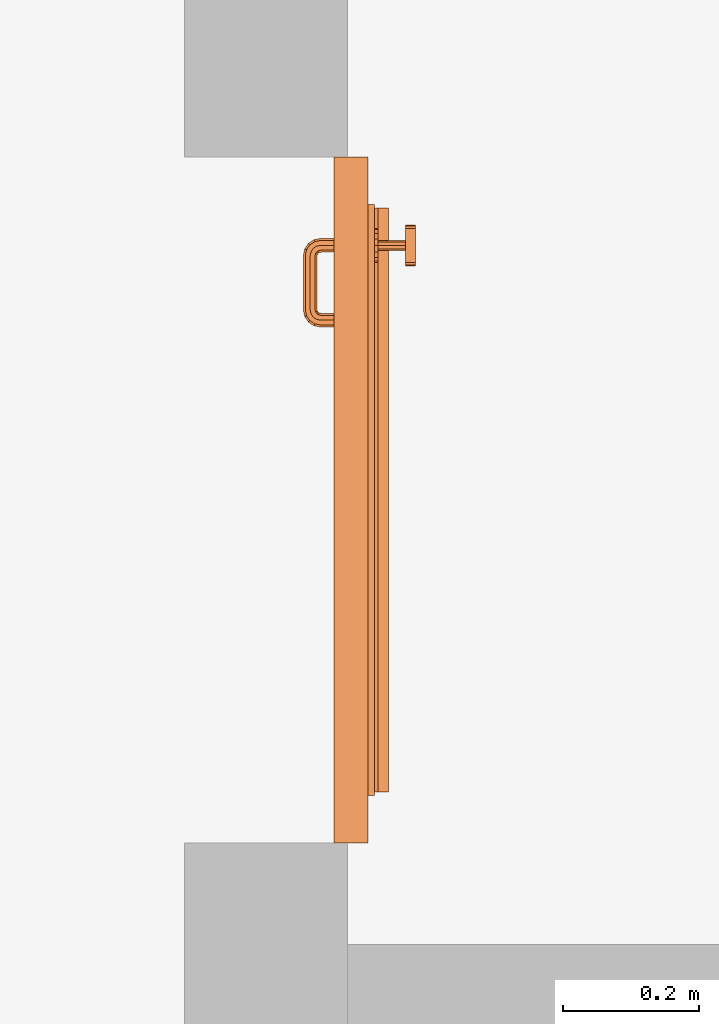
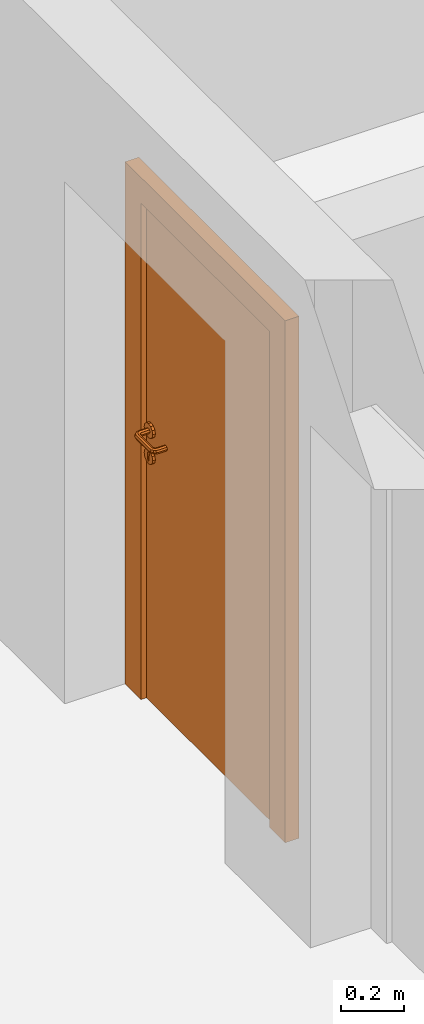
# One storey, part 5 of 5: 1 proxy.
"""IFC4 building model written with IfcOpenShell, lengths in metres."""

from ifc_helpers import new_model, entity, si_unit, converted_unit, derived_unit, direction, frame, origin_with_axes, place, context, subcontext, project, spatial, triangles, type_object, element, save


model = new_model("IFC4")

# Units and contexts
model_context = context("Model", 3, precision=1e-05, world=origin_with_axes(), true_north=direction((-0.526213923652, 0.850352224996)))
body_context = subcontext(model_context, "Body", "Model", "MODEL_VIEW")
ifc_project = project(units=[si_unit("LENGTHUNIT", "METRE"), si_unit("AREAUNIT", "SQUARE_METRE"), si_unit("VOLUMEUNIT", "CUBIC_METRE"), converted_unit("PLANEANGLEUNIT", "DEGREE", entity("IfcPlaneAngleMeasure", 0.0174532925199), si_unit("PLANEANGLEUNIT", "RADIAN"), dimensions=[0, 0, 0, 0, 0, 0, 0]), si_unit("SOLIDANGLEUNIT", "STERADIAN"), converted_unit("TIMEUNIT", "Year", entity("IfcTimeMeasure", 31556926.0), si_unit("TIMEUNIT", "SECOND"), dimensions=[0, 0, 1, 0, 0, 0, 0]), si_unit("MASSUNIT", "GRAM", prefix="KILO"), si_unit("THERMODYNAMICTEMPERATUREUNIT", "DEGREE_CELSIUS"), si_unit("LUMINOUSINTENSITYUNIT", "LUMEN"), si_unit("ENERGYUNIT", "JOULE", prefix="MEGA"), derived_unit("THERMALCONDUCTANCEUNIT", [(si_unit("POWERUNIT", "WATT"), 1), (si_unit("LENGTHUNIT", "METRE"), -1), (si_unit("THERMODYNAMICTEMPERATUREUNIT", "KELVIN"), -1)]), derived_unit("SPECIFICHEATCAPACITYUNIT", [(si_unit("ENERGYUNIT", "JOULE"), 1), (si_unit("MASSUNIT", "GRAM", prefix="KILO"), -1), (si_unit("THERMODYNAMICTEMPERATUREUNIT", "KELVIN"), -1)]), derived_unit("MASSDENSITYUNIT", [(si_unit("MASSUNIT", "GRAM", prefix="KILO"), 1), (si_unit("VOLUMEUNIT", "CUBIC_METRE"), -1)])], contexts=[model_context])

# Site, building, storey
site_placement = place(None, origin_with_axes())
site = spatial("IfcSite", under=ifc_project, at=site_placement, Name="Gelände", CompositionType="ELEMENT")
building_placement = place(site_placement, origin_with_axes())
building = spatial("IfcBuilding", under=site, at=building_placement, Name="Haus vom Nikolaus", CompositionType="ELEMENT")
storey_placement = place(building_placement, frame((0.0, 0.0, -2.8), z_axis=(0.0, 0.0, 1.0), x_axis=(1.0, 0.0, 0.0)))
storey = spatial("IfcBuildingStorey", under=building, at=storey_placement, Name="-1. Geschoss", CompositionType="ELEMENT", Elevation=-2.8)

# Proxy
building_element_proxy_type = type_object("IfcBuildingElementProxyType", Name="Eingangstür 01 22", PredefinedType="NOTDEFINED")
proxy_placement = place(storey_placement, frame((11.2399975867, 4.98733205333, 0.0), z_axis=(0.0, 0.0, 1.0), x_axis=(0.0, -1.0, 0.0)))
element("IfcBuildingElementProxy", 1, at=proxy_placement, inside=storey, type_object=building_element_proxy_type, Name="Tür-001", PredefinedType="NOTDEFINED", context=body_context, shape_type="Tessellation", body=[
    triangles([(1.01, 0.0, 2.01), (1.01, -0.02, 0.0), (1.01, 0.0, 0.0), (1.01, -0.02, 2.01), (0.91, -0.02, 0.0), (0.91, 0.0, 0.0), (0.91, 0.0, 1.91), (0.6351, 0.0, 1.91), (0.5051, 0.0, 1.91), (0.0, 0.0, 2.01), (0.1, 0.0, 1.91), (0.0, 0.0, 0.0), (0.1, 0.0, 0.0), (0.0, -0.02, 2.01), (0.91, -0.02, 1.91), (0.0, -0.02, 0.0), (0.1, -0.02, 1.91), (0.1, -0.02, 0.0), (0.5051, -0.02, 1.91), (0.6351, -0.02, 1.91)], [[1, 2, 3], [1, 4, 2], [3, 5, 6], [3, 2, 5], [1, 3, 7], [8, 1, 7], [7, 3, 6], [9, 1, 8], [1, 9, 10], [10, 9, 11], [12, 10, 11], [12, 11, 13], [10, 4, 1], [10, 14, 4], [15, 5, 2], [16, 17, 14], [17, 16, 18], [14, 19, 4], [19, 14, 17], [20, 4, 19], [15, 4, 20], [4, 15, 2], [6, 15, 7], [6, 5, 15], [7, 20, 8], [7, 15, 20], [8, 19, 9], [8, 20, 19], [9, 17, 11], [9, 19, 17], [11, 18, 13], [11, 17, 18], [13, 16, 12], [13, 18, 16], [12, 14, 10], [12, 16, 14]], closed=True),
    triangles([(1.01, 0.03, 2.01), (1.01, 0.0, 0.0), (1.01, 0.03, 0.0), (1.01, 0.0, 2.01), (0.94, 0.0, 0.0), (0.94, 0.03, 0.0), (0.94, 0.03, 1.94), (0.6051, 0.03, 1.94), (0.5351, 0.03, 1.94), (0.0, 0.03, 2.01), (0.07, 0.03, 1.94), (0.0, 0.03, 0.0), (0.07, 0.03, 0.0), (0.0, 0.0, 2.01), (0.94, 0.0, 1.94), (0.07, 0.0, 1.94), (0.0, 0.0, 0.0), (0.07, 0.0, 0.0), (0.5351, 0.0, 1.94), (0.6051, 0.0, 1.94)], [[1, 2, 3], [1, 4, 2], [3, 5, 6], [3, 2, 5], [1, 3, 7], [8, 1, 7], [7, 3, 6], [9, 1, 8], [1, 9, 10], [10, 9, 11], [12, 10, 11], [12, 11, 13], [10, 4, 1], [10, 14, 4], [15, 5, 2], [16, 17, 18], [19, 14, 16], [17, 16, 14], [20, 4, 19], [14, 19, 4], [15, 4, 20], [4, 15, 2], [6, 15, 7], [6, 5, 15], [7, 20, 8], [7, 15, 20], [8, 19, 9], [8, 20, 19], [9, 16, 11], [9, 19, 16], [11, 18, 13], [11, 16, 18], [13, 17, 12], [13, 18, 17], [12, 14, 10], [12, 17, 14]], closed=True),
    triangles([(0.07, 0.04, 1.94), (0.94, 0.04, 0.0), (0.07, 0.04, 0.0), (0.94, 0.04, 1.94), (0.94, 0.0, 0.0), (0.07, 0.0, 0.0), (0.07, 0.0, 1.94), (0.94, 0.0, 1.94)], [[1, 2, 3], [1, 4, 2], [5, 3, 2], [5, 6, 3], [6, 1, 3], [6, 7, 1], [7, 4, 1], [7, 8, 4], [8, 2, 4], [8, 5, 2], [8, 6, 5], [8, 7, 6]], closed=True),
    triangles([(0.075, 0.06, 0.05), (0.935, 0.06, 0.0), (0.075, 0.06, 0.0), (0.935, 0.06, 0.05), (0.935, 0.04, 0.0), (0.075, 0.04, 0.0), (0.075, 0.04, 0.07), (0.075, 0.045, 0.07), (0.935, 0.045, 0.07), (0.935, 0.04, 0.07)], [[1, 2, 3], [1, 4, 2], [3, 5, 6], [3, 2, 5], [1, 7, 8], [6, 1, 3], [7, 1, 6], [8, 4, 1], [8, 9, 4], [5, 4, 10], [10, 4, 9], [4, 5, 2], [6, 10, 7], [6, 5, 10], [7, 9, 8], [7, 10, 9]], closed=True),
    triangles([(0.13, -0.0099, 1.077), (0.1165, -0.01, 1.0733826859), (0.13, -0.01, 1.077), (0.1165, -0.0099, 1.0733826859), (0.1435, -0.01, 1.0266173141), (0.1165, -0.01, 1.0266173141), (0.13, -0.01, 1.023), (0.103, -0.01, 1.05), (0.106617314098, -0.01, 1.0365), (0.106617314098, -0.01, 1.0635), (0.1435, -0.01, 1.0733826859), (0.157, -0.01, 1.05), (0.153382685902, -0.01, 1.0365), (0.153382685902, -0.01, 1.0635), (0.1435, -0.0099, 1.0733826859), (0.13, -9.99999999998e-05, 1.077), (0.1165, -9.99999999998e-05, 1.0733826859), (0.106617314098, -0.0099, 1.0635), (0.103, -0.0099, 1.05), (0.106617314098, -0.0099, 1.0365), (0.1165, -0.0099, 1.0266173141), (0.13, -0.0099, 1.023), (0.1435, -0.0099, 1.0266173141), (0.153382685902, -0.0099, 1.0365), (0.157, -0.0099, 1.05), (0.153382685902, -0.0099, 1.0635), (0.1435, -9.99999999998e-05, 1.0733826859), (0.13, 0.0, 1.077), (0.1165, 0.0, 1.0733826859), (0.106617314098, -9.99999999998e-05, 1.0635), (0.103, -9.99999999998e-05, 1.05), (0.106617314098, -9.99999999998e-05, 1.0365), (0.1165, -9.99999999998e-05, 1.0266173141), (0.13, -9.99999999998e-05, 1.023), (0.1435, -9.99999999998e-05, 1.0266173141), (0.153382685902, -9.99999999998e-05, 1.0365), (0.157, -9.99999999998e-05, 1.05), (0.153382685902, -9.99999999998e-05, 1.0635), (0.1435, 0.0, 1.0733826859), (0.1435, 0.0, 1.0266173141), (0.1165, 0.0, 1.0266173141), (0.157, 0.0, 1.05), (0.153382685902, 0.0, 1.0365), (0.153382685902, 0.0, 1.0635), (0.13, 0.0, 1.023), (0.103, 0.0, 1.05), (0.106617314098, 0.0, 1.0365), (0.106617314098, 0.0, 1.0635)], [[1, 2, 3], [1, 4, 2], [5, 6, 7], [6, 8, 9], [8, 2, 10], [8, 6, 2], [11, 6, 5], [11, 2, 6], [12, 5, 13], [11, 5, 12], [2, 11, 3], [11, 12, 14], [15, 3, 11], [15, 1, 3], [16, 4, 1], [16, 17, 4], [4, 10, 2], [4, 18, 10], [18, 8, 10], [18, 19, 8], [19, 9, 8], [19, 20, 9], [20, 6, 9], [20, 21, 6], [21, 7, 6], [21, 22, 7], [22, 5, 7], [22, 23, 5], [23, 13, 5], [23, 24, 13], [24, 12, 13], [24, 25, 12], [25, 14, 12], [25, 26, 14], [26, 11, 14], [26, 15, 11], [27, 1, 15], [27, 16, 1], [28, 17, 16], [28, 29, 17], [17, 18, 4], [17, 30, 18], [30, 19, 18], [30, 31, 19], [31, 20, 19], [31, 32, 20], [32, 21, 20], [32, 33, 21], [34, 21, 33], [21, 34, 22], [34, 23, 22], [34, 35, 23], [36, 23, 35], [23, 36, 24], [36, 25, 24], [36, 37, 25], [37, 26, 25], [37, 38, 26], [38, 15, 26], [38, 27, 15], [39, 16, 27], [39, 28, 16], [40, 41, 39], [40, 42, 43], [42, 39, 44], [42, 40, 39], [29, 39, 41], [41, 40, 45], [46, 41, 47], [29, 41, 46], [39, 29, 28], [29, 46, 48], [29, 30, 17], [29, 48, 30], [48, 31, 30], [48, 46, 31], [46, 32, 31], [46, 47, 32], [47, 33, 32], [47, 41, 33], [41, 34, 33], [41, 45, 34], [45, 35, 34], [45, 40, 35], [40, 36, 35], [40, 43, 36], [43, 37, 36], [43, 42, 37], [42, 38, 37], [42, 44, 38], [44, 27, 38], [44, 39, 27]], closed=True),
    triangles([(0.153296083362, -0.01, 0.96345), (0.136720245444, -0.01, 0.961639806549), (0.137467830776, -0.01, 0.959692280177), (0.135, -0.01, 0.952886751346), (0.135, -0.01, 0.9544), (0.14345, -0.01, 0.973296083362), (0.137467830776, -0.009, 0.959692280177), (0.135, -0.009, 0.9544), (0.135, -0.009, 0.952886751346), (0.135, -0.01, 0.95), (0.135, -0.009, 0.95), (0.135, -0.01, 0.947113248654), (0.135, -0.009, 0.947113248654), (0.135, -0.01, 0.941339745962), (0.135, -0.009, 0.941339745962), (0.135, -0.01, 0.9375), (0.135, -0.009, 0.9375), (0.1569, -0.01, 0.95), (0.1435, -0.01, 0.973382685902), (0.153382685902, -0.01, 0.9635), (0.13, -0.01, 0.9769), (0.13, -0.01, 0.967425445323), (0.135375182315, -0.01, 0.965143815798), (0.135375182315, -0.009, 0.965143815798), (0.136720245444, -0.009, 0.961639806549), (0.152430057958, -0.009, 0.96295), (0.14295, -0.009, 0.972430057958), (0.1559, -0.009, 0.95), (0.152430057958, -0.009, 0.93705), (0.14295, -0.009, 0.927569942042), (0.133535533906, -0.009, 0.933964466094), (0.13, -0.009, 0.9241), (0.13, -0.009, 0.9325), (0.133535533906, -0.01, 0.933964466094), (0.14345, -0.01, 0.926703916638), (0.13, -0.01, 0.9231), (0.13, -0.01, 0.9325), (0.153296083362, -0.01, 0.93655), (0.157, -0.01, 0.95), (0.153382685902, -0.0099, 0.9635), (0.1435, -0.0099, 0.973382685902), (0.13, -0.01, 0.977), (0.11655, -0.01, 0.973296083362), (0.123279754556, -0.01, 0.961639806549), (0.124624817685, -0.01, 0.965143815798), (0.13, -0.009, 0.967425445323), (0.13, -0.009, 0.9759), (0.152516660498, -0.009, 0.963), (0.143, -0.009, 0.972516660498), (0.156, -0.009, 0.95), (0.152516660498, -0.009, 0.937), (0.143, -0.009, 0.927483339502), (0.125, -0.009, 0.9375), (0.11705, -0.009, 0.927569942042), (0.125, -0.009, 0.941339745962), (0.126464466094, -0.009, 0.933964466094), (0.13, -0.009, 0.924), (0.125, -0.01, 0.9375), (0.11655, -0.01, 0.926703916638), (0.126464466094, -0.01, 0.933964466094), (0.125, -0.01, 0.941339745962), (0.13, -0.01, 0.923), (0.1435, -0.01, 0.926617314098), (0.153382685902, -0.01, 0.9365), (0.157, -0.0099, 0.95), (0.153382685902, -9.99999999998e-05, 0.9635), (0.1435, -9.99999999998e-05, 0.973382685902), (0.13, -0.0099, 0.977), (0.1165, -0.01, 0.973382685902), (0.124624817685, -0.009, 0.965143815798), (0.125, -0.01, 0.9544), (0.122532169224, -0.01, 0.959692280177), (0.125, -0.01, 0.952886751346), (0.106703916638, -0.01, 0.96345), (0.123279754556, -0.009, 0.961639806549), (0.122532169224, -0.009, 0.959692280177), (0.11705, -0.009, 0.972430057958), (0.13, -0.009, 0.976), (0.143, -0.0089, 0.972516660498), (0.152516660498, -0.0089, 0.963), (0.156, -0.0089, 0.95), (0.152516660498, -0.0089, 0.937), (0.143, -0.0089, 0.927483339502), (0.107569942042, -0.009, 0.93705), (0.125, -0.009, 0.947113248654), (0.125, -0.009, 0.952886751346), (0.125, -0.009, 0.9544), (0.125, -0.009, 0.95), (0.125, -0.01, 0.95), (0.125, -0.01, 0.947113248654), (0.117, -0.009, 0.927483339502), (0.13, -0.0089, 0.924), (0.106703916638, -0.01, 0.93655), (0.1165, -0.01, 0.926617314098), (0.13, -0.0099, 0.923), (0.1435, -0.0099, 0.926617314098), (0.153382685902, -0.0099, 0.9365), (0.157, -9.99999999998e-05, 0.95), (0.153382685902, 0.0, 0.9635), (0.1435, 0.0, 0.973382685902), (0.13, -9.99999999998e-05, 0.977), (0.1165, -0.0099, 0.973382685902), (0.106617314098, -0.01, 0.9635), (0.1031, -0.01, 0.95), (0.107569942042, -0.009, 0.96295), (0.117, -0.009, 0.972516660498), (0.13, -0.0089, 0.976), (0.143, -9.99999999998e-05, 0.972516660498), (0.152516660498, -9.99999999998e-05, 0.963), (0.156, -9.99999999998e-05, 0.95), (0.152516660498, -9.99999999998e-05, 0.937), (0.143, -9.99999999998e-05, 0.927483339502), (0.107483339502, -0.009, 0.937), (0.1041, -0.009, 0.95), (0.117, -0.0089, 0.927483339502), (0.13, -9.99999999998e-05, 0.924), (0.106617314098, -0.01, 0.9365), (0.1165, -0.0099, 0.926617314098), (0.13, -9.99999999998e-05, 0.923), (0.1435, -9.99999999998e-05, 0.926617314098), (0.153382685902, -9.99999999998e-05, 0.9365), (0.157, 0.0, 0.95), (0.153296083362, 0.0, 0.96345), (0.14345, 0.0, 0.973296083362), (0.13, 0.0, 0.977), (0.1165, -9.99999999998e-05, 0.973382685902), (0.106617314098, -0.0099, 0.9635), (0.103, -0.01, 0.95), (0.107483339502, -0.009, 0.963), (0.117, -0.0089, 0.972516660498), (0.13, -9.99999999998e-05, 0.976), (0.143, 0.0, 0.972516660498), (0.152516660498, 0.0, 0.963), (0.156, 0.0, 0.95), (0.152516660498, 0.0, 0.937), (0.143, 0.0, 0.927483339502), (0.107483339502, -0.0089, 0.937), (0.104, -0.009, 0.95), (0.117, -9.99999999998e-05, 0.927483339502), (0.13, 0.0, 0.924), (0.106617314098, -0.0099, 0.9365), (0.1165, -9.99999999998e-05, 0.926617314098), (0.13, 0.0, 0.923), (0.1435, 0.0, 0.926617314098), (0.153382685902, 0.0, 0.9365), (0.1569, 0.0, 0.95), (0.14305, 0.0, 0.972603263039), (0.152603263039, 0.0, 0.96305), (0.13, 0.0, 0.9769), (0.1165, 0.0, 0.973382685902), (0.106617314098, -9.99999999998e-05, 0.9635), (0.103, -0.0099, 0.95), (0.107483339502, -0.0089, 0.963), (0.117, -9.99999999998e-05, 0.972516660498), (0.13, 0.0, 0.976), (0.1561, 0.0, 0.95), (0.152603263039, 0.0, 0.93695), (0.14305, 0.0, 0.927396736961), (0.107483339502, -9.99999999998e-05, 0.937), (0.104, -0.0089, 0.95), (0.117, 0.0, 0.927483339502), (0.13, 0.0, 0.9239), (0.106617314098, -9.99999999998e-05, 0.9365), (0.1165, 0.0, 0.926617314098), (0.13, 0.0, 0.9231), (0.14345, 0.0, 0.926703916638), (0.153296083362, 0.0, 0.93655), (0.13, 0.0, 0.9761), (0.11655, 0.0, 0.973296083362), (0.106617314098, 0.0, 0.9635), (0.103, -9.99999999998e-05, 0.95), (0.107483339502, -9.99999999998e-05, 0.963), (0.117, 0.0, 0.972516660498), (0.107483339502, 0.0, 0.937), (0.104, -9.99999999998e-05, 0.95), (0.11695, 0.0, 0.927396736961), (0.106617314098, 0.0, 0.9365), (0.11655, 0.0, 0.926703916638), (0.11695, 0.0, 0.972603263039), (0.106703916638, 0.0, 0.96345), (0.103, 0.0, 0.95), (0.107483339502, 0.0, 0.963), (0.107396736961, 0.0, 0.93695), (0.104, 0.0, 0.95), (0.106703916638, 0.0, 0.93655), (0.107396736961, 0.0, 0.96305), (0.1031, 0.0, 0.95), (0.1039, 0.0, 0.95)], [[1, 2, 3], [4, 1, 3], [4, 3, 5], [2, 1, 6], [7, 5, 3], [7, 8, 5], [4, 5, 9], [10, 9, 11], [9, 5, 8], [12, 11, 13], [14, 15, 16], [16, 15, 17], [15, 14, 13], [12, 13, 14], [10, 11, 12], [4, 9, 10], [4, 18, 1], [18, 4, 10], [1, 19, 6], [19, 1, 20], [21, 22, 23], [6, 23, 2], [21, 23, 6], [24, 2, 23], [25, 3, 2], [7, 3, 25], [24, 25, 2], [8, 7, 9], [26, 25, 27], [25, 26, 7], [9, 7, 26], [28, 11, 9], [28, 9, 26], [13, 28, 29], [28, 13, 11], [15, 29, 30], [29, 15, 13], [17, 30, 31], [31, 32, 33], [15, 30, 17], [31, 30, 32], [31, 16, 17], [31, 34, 16], [16, 35, 14], [34, 35, 16], [36, 34, 37], [34, 36, 35], [38, 12, 14], [38, 14, 35], [18, 10, 12], [18, 12, 38], [18, 20, 1], [20, 18, 39], [19, 40, 41], [19, 20, 40], [21, 19, 42], [21, 6, 19], [43, 44, 45], [21, 43, 45], [21, 45, 22], [46, 23, 22], [46, 24, 23], [27, 25, 24], [47, 27, 24], [47, 24, 46], [48, 27, 49], [27, 48, 26], [50, 26, 48], [26, 50, 28], [50, 29, 28], [50, 51, 29], [51, 30, 29], [51, 52, 30], [53, 54, 55], [56, 54, 53], [32, 56, 33], [56, 32, 54], [33, 34, 31], [33, 37, 34], [52, 32, 30], [52, 57, 32], [58, 59, 60], [60, 36, 37], [61, 59, 58], [60, 59, 36], [35, 62, 63], [35, 36, 62], [38, 63, 64], [38, 35, 63], [18, 64, 39], [18, 38, 64], [20, 65, 40], [20, 39, 65], [41, 66, 67], [41, 40, 66], [42, 41, 68], [42, 19, 41], [21, 69, 43], [69, 21, 42], [70, 22, 45], [70, 46, 22], [71, 72, 73], [74, 44, 43], [44, 74, 72], [73, 72, 74], [70, 44, 75], [76, 44, 72], [44, 70, 45], [76, 75, 44], [47, 46, 70], [47, 70, 77], [77, 70, 75], [49, 47, 78], [47, 49, 27], [79, 48, 49], [79, 80, 48], [80, 50, 48], [80, 81, 50], [81, 51, 50], [81, 82, 51], [82, 52, 51], [82, 83, 52], [84, 85, 55], [84, 55, 54], [86, 87, 73], [88, 73, 89], [73, 87, 71], [85, 89, 90], [55, 61, 53], [53, 61, 58], [61, 55, 90], [85, 90, 55], [88, 89, 85], [86, 73, 88], [53, 60, 56], [53, 58, 60], [56, 37, 33], [56, 60, 37], [91, 32, 57], [32, 91, 54], [83, 57, 52], [83, 92, 57], [61, 93, 59], [93, 61, 90], [59, 62, 36], [62, 59, 94], [63, 95, 96], [63, 62, 95], [64, 96, 97], [64, 63, 96], [39, 97, 65], [39, 64, 97], [40, 98, 66], [40, 65, 98], [67, 99, 100], [67, 66, 99], [68, 67, 101], [68, 41, 67], [69, 68, 102], [69, 42, 68], [74, 69, 103], [74, 43, 69], [104, 89, 73], [104, 73, 74], [87, 72, 71], [87, 76, 72], [105, 75, 76], [86, 105, 76], [86, 76, 87], [75, 105, 77], [106, 47, 77], [106, 78, 47], [107, 49, 78], [107, 79, 49], [108, 80, 79], [108, 109, 80], [109, 81, 80], [109, 110, 81], [111, 81, 110], [81, 111, 82], [111, 83, 82], [111, 112, 83], [113, 54, 91], [54, 113, 84], [114, 88, 85], [114, 85, 84], [90, 104, 93], [104, 90, 89], [86, 114, 105], [114, 86, 88], [92, 91, 57], [92, 115, 91], [112, 92, 83], [112, 116, 92], [93, 94, 59], [94, 93, 117], [62, 118, 95], [62, 94, 118], [96, 119, 120], [96, 95, 119], [96, 121, 97], [121, 96, 120], [65, 121, 98], [65, 97, 121], [66, 122, 99], [66, 98, 122], [100, 123, 124], [100, 99, 123], [101, 100, 125], [101, 67, 100], [102, 101, 126], [102, 68, 101], [103, 102, 127], [103, 69, 102], [104, 103, 128], [104, 74, 103], [129, 77, 105], [129, 106, 77], [130, 78, 106], [130, 107, 78], [131, 79, 107], [131, 108, 79], [132, 109, 108], [132, 133, 109], [133, 110, 109], [133, 134, 110], [134, 111, 110], [134, 135, 111], [135, 112, 111], [135, 136, 112], [115, 113, 91], [115, 137, 113], [138, 84, 113], [84, 138, 114], [104, 117, 93], [117, 104, 128], [138, 105, 114], [138, 129, 105], [116, 115, 92], [116, 139, 115], [136, 116, 112], [136, 140, 116], [94, 141, 118], [94, 117, 141], [118, 119, 95], [119, 118, 142], [120, 143, 144], [120, 119, 143], [121, 144, 145], [121, 120, 144], [98, 145, 122], [98, 121, 145], [99, 146, 123], [99, 122, 146], [123, 147, 124], [147, 123, 148], [100, 149, 125], [149, 100, 124], [126, 125, 150], [126, 101, 125], [127, 126, 151], [127, 102, 126], [128, 127, 152], [128, 103, 127], [153, 106, 129], [153, 130, 106], [154, 107, 130], [154, 131, 107], [155, 108, 131], [155, 132, 108], [147, 133, 132], [147, 148, 133], [148, 134, 133], [148, 156, 134], [157, 134, 156], [134, 157, 135], [157, 136, 135], [157, 158, 136], [139, 137, 115], [139, 159, 137], [137, 138, 113], [137, 160, 138], [117, 152, 141], [117, 128, 152], [160, 129, 138], [160, 153, 129], [140, 139, 116], [140, 161, 139], [158, 140, 136], [158, 162, 140], [141, 142, 118], [142, 141, 163], [119, 164, 143], [119, 142, 164], [144, 165, 166], [144, 143, 165], [144, 167, 145], [167, 144, 166], [145, 146, 122], [146, 145, 167], [146, 148, 123], [148, 146, 156], [124, 168, 149], [168, 124, 147], [150, 149, 169], [150, 125, 149], [151, 150, 170], [151, 126, 150], [152, 151, 171], [152, 127, 151], [172, 130, 153], [172, 154, 130], [173, 131, 154], [173, 155, 131], [147, 155, 168], [155, 147, 132], [146, 157, 156], [146, 167, 157], [167, 158, 157], [167, 166, 158], [161, 159, 139], [161, 174, 159], [159, 160, 137], [159, 175, 160], [152, 163, 141], [163, 152, 171], [175, 153, 160], [175, 172, 153], [176, 140, 162], [140, 176, 161], [166, 162, 158], [166, 165, 162], [142, 177, 164], [142, 163, 177], [164, 165, 143], [165, 164, 178], [169, 168, 179], [169, 149, 168], [150, 180, 170], [180, 150, 169], [171, 170, 181], [171, 151, 170], [182, 154, 172], [182, 173, 154], [179, 155, 173], [179, 168, 155], [176, 174, 161], [176, 183, 174], [174, 175, 159], [174, 184, 175], [163, 181, 177], [163, 171, 181], [184, 172, 175], [184, 182, 172], [178, 162, 165], [162, 178, 176], [164, 185, 178], [164, 177, 185], [180, 179, 186], [180, 169, 179], [170, 187, 181], [187, 170, 180], [179, 182, 186], [182, 179, 173], [185, 176, 178], [176, 185, 183], [183, 184, 174], [183, 188, 184], [177, 187, 185], [177, 181, 187], [186, 184, 188], [184, 186, 182], [187, 186, 188], [187, 180, 186], [187, 183, 185], [183, 187, 188]], closed=True),
    triangles([(0.122928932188, -0.040696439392, 1.04292893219), (0.12, -0.01, 1.05), (0.122928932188, -0.01, 1.04292893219), (0.12, -0.0409849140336, 1.05), (0.13, -0.04, 1.04), (0.13, -0.01, 1.04), (0.124481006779, -0.0484992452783, 1.04292893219), (0.121722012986, -0.0496420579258, 1.05), (0.122928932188, -0.040696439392, 1.05707106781), (0.122928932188, -0.01, 1.05707106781), (0.137071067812, -0.039303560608, 1.04292893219), (0.137071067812, -0.01, 1.04292893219), (0.131141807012, -0.0457402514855, 1.04), (0.129295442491, -0.0557045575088, 1.04292893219), (0.127183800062, -0.0578161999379, 1.05), (0.124481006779, -0.0484992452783, 1.05707106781), (0.13, -0.04, 1.06), (0.13, -0.01, 1.06), (0.14, -0.0390150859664, 1.05), (0.14, -0.01, 1.05), (0.137802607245, -0.0429812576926, 1.04292893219), (0.134393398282, -0.0506066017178, 1.04), (0.136500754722, -0.0605189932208, 1.04292893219), (0.135357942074, -0.0632779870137, 1.05), (0.129295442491, -0.0557045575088, 1.05707106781), (0.131141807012, -0.0457402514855, 1.06), (0.137071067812, -0.039303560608, 1.05707106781), (0.137071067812, -0.01, 1.05707106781), (0.140561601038, -0.0418384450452, 1.05), (0.139491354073, -0.0455086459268, 1.04292893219), (0.139259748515, -0.0538581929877, 1.04), (0.144015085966, -0.065, 1.05), (0.144303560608, -0.0620710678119, 1.04292893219), (0.136500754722, -0.0605189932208, 1.05707106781), (0.134393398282, -0.0506066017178, 1.06), (0.137802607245, -0.0429812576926, 1.05707106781), (0.141602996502, -0.0433970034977, 1.05), (0.142018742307, -0.0471973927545, 1.04292893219), (0.145, -0.055, 1.04), (0.225696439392, -0.0620710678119, 1.04292893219), (0.225984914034, -0.065, 1.05), (0.144303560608, -0.0620710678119, 1.05707106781), (0.139259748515, -0.0538581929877, 1.06), (0.139491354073, -0.0455086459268, 1.05707106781), (0.143161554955, -0.0444383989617, 1.05), (0.145696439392, -0.0479289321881, 1.04292893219), (0.225, -0.055, 1.04), (0.233499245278, -0.0605189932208, 1.04292893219), (0.234642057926, -0.0632779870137, 1.05), (0.225696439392, -0.0620710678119, 1.05707106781), (0.145, -0.055, 1.06), (0.142018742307, -0.0471973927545, 1.05707106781), (0.145984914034, -0.045, 1.05), (0.224303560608, -0.0479289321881, 1.04292893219), (0.230740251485, -0.0538581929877, 1.04), (0.242816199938, -0.0578161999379, 1.05), (0.240704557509, -0.0557045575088, 1.04292893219), (0.233499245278, -0.0605189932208, 1.05707106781), (0.225, -0.055, 1.06), (0.145696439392, -0.0479289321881, 1.05707106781), (0.224015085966, -0.045, 1.05), (0.227981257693, -0.0471973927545, 1.04292893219), (0.235606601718, -0.0506066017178, 1.04), (0.248277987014, -0.0496420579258, 1.05), (0.245518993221, -0.0484992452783, 1.04292893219), (0.240704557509, -0.0557045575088, 1.05707106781), (0.230740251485, -0.0538581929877, 1.06), (0.224303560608, -0.0479289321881, 1.05707106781), (0.226838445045, -0.0444383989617, 1.05), (0.230508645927, -0.0455086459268, 1.04292893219), (0.238858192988, -0.0457402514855, 1.04), (0.25, -0.0409849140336, 1.05), (0.247071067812, -0.040696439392, 1.04292893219), (0.245518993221, -0.0484992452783, 1.05707106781), (0.235606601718, -0.0506066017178, 1.06), (0.227981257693, -0.0471973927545, 1.05707106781), (0.228397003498, -0.0433970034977, 1.05), (0.232197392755, -0.0429812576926, 1.04292893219), (0.24, -0.04, 1.04), (0.25, -0.01, 1.05), (0.247071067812, -0.01, 1.04292893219), (0.247071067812, -0.040696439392, 1.05707106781), (0.238858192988, -0.0457402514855, 1.06), (0.230508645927, -0.0455086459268, 1.05707106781), (0.229438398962, -0.0418384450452, 1.05), (0.232928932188, -0.039303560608, 1.04292893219), (0.24, -0.01, 1.04), (0.23, -0.01, 1.05), (0.24, -0.01, 1.06), (0.232928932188, -0.01, 1.04292893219), (0.232928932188, -0.01, 1.05707106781), (0.247071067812, -0.01, 1.05707106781), (0.24, -0.04, 1.06), (0.232197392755, -0.0429812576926, 1.05707106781), (0.23, -0.0390150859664, 1.05), (0.232928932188, -0.039303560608, 1.05707106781)], [[1, 2, 3], [1, 4, 2], [5, 3, 6], [5, 1, 3], [7, 4, 1], [7, 8, 4], [9, 2, 4], [2, 9, 10], [11, 6, 12], [11, 5, 6], [13, 1, 5], [13, 7, 1], [14, 8, 7], [14, 15, 8], [16, 4, 8], [4, 16, 9], [17, 10, 9], [10, 17, 18], [19, 12, 20], [19, 11, 12], [21, 5, 11], [21, 13, 5], [14, 13, 22], [13, 14, 7], [23, 15, 14], [23, 24, 15], [25, 8, 15], [8, 25, 16], [26, 9, 16], [9, 26, 17], [27, 18, 17], [18, 27, 28], [19, 28, 27], [28, 19, 20], [29, 11, 19], [29, 21, 11], [30, 13, 21], [30, 22, 13], [23, 22, 31], [22, 23, 14], [32, 23, 33], [23, 32, 24], [34, 15, 24], [15, 34, 25], [35, 26, 25], [25, 26, 16], [36, 17, 26], [17, 36, 27], [29, 27, 36], [27, 29, 19], [30, 29, 37], [29, 30, 21], [38, 22, 30], [38, 31, 22], [33, 31, 39], [31, 33, 23], [40, 32, 33], [40, 41, 32], [32, 34, 24], [32, 42, 34], [43, 35, 34], [34, 35, 25], [44, 26, 35], [26, 44, 36], [44, 29, 36], [44, 37, 29], [45, 30, 37], [45, 38, 30], [39, 38, 46], [38, 39, 31], [47, 33, 39], [47, 40, 33], [48, 41, 40], [48, 49, 41], [50, 42, 41], [41, 42, 32], [42, 43, 34], [42, 51, 43], [52, 35, 43], [35, 52, 44], [45, 44, 52], [44, 45, 37], [46, 45, 53], [45, 46, 38], [47, 46, 54], [46, 47, 39], [55, 40, 47], [55, 48, 40], [56, 48, 57], [48, 56, 49], [58, 41, 49], [41, 58, 50], [42, 59, 51], [59, 42, 50], [51, 52, 43], [51, 60, 52], [60, 45, 52], [60, 53, 45], [54, 53, 61], [53, 54, 46], [62, 47, 54], [62, 55, 47], [63, 48, 55], [63, 57, 48], [64, 57, 65], [57, 64, 56], [56, 58, 49], [56, 66, 58], [67, 50, 58], [50, 67, 59], [68, 60, 59], [59, 60, 51], [60, 61, 53], [61, 60, 68], [69, 54, 61], [69, 62, 54], [70, 55, 62], [70, 63, 55], [71, 57, 63], [71, 65, 57], [72, 65, 73], [65, 72, 64], [64, 66, 56], [64, 74, 66], [58, 75, 67], [75, 58, 66], [76, 59, 67], [59, 76, 68], [69, 68, 76], [68, 69, 61], [77, 62, 69], [77, 70, 62], [71, 70, 78], [70, 71, 63], [73, 71, 79], [71, 73, 65], [80, 73, 81], [73, 80, 72], [72, 74, 64], [72, 82, 74], [66, 83, 75], [83, 66, 74], [84, 67, 75], [67, 84, 76], [77, 76, 84], [76, 77, 69], [85, 70, 77], [85, 78, 70], [79, 78, 86], [78, 79, 71], [81, 79, 87], [79, 81, 73], [88, 89, 87], [88, 87, 90], [87, 80, 81], [87, 89, 80], [89, 88, 91], [89, 92, 80], [80, 82, 72], [80, 92, 82], [82, 83, 74], [82, 93, 83], [83, 84, 75], [83, 94, 84], [85, 84, 94], [84, 85, 77], [86, 85, 95], [85, 86, 78], [87, 86, 90], [86, 87, 79], [90, 95, 88], [95, 90, 86], [91, 95, 96], [91, 88, 95], [91, 96, 89], [89, 96, 93], [89, 93, 92], [92, 93, 82], [93, 94, 83], [93, 96, 94], [96, 85, 94], [96, 95, 85]], closed=False),
    triangles([(0.124696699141, 0.045, 1.04469669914), (0.124696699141, 0.045, 1.05530330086), (0.1225, 0.045, 1.05), (0.13, 0.045, 1.0575), (0.135303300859, 0.045, 1.04469669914), (0.135303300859, 0.045, 1.05530330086), (0.1375, 0.045, 1.05), (0.13, 0.045, 1.0425), (0.135303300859, 0.085, 1.04469669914), (0.1375, 0.085, 1.05), (0.135303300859, 0.085, 1.05530330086), (0.13, 0.085, 1.0575), (0.124696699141, 0.085, 1.05530330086), (0.1225, 0.085, 1.05), (0.124696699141, 0.085, 1.04469669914), (0.13, 0.085, 1.0425)], [[1, 2, 3], [4, 5, 6], [6, 5, 7], [8, 4, 1], [1, 4, 2], [4, 8, 5], [7, 9, 10], [9, 7, 5], [6, 10, 11], [10, 6, 7], [12, 6, 11], [12, 4, 6], [13, 4, 12], [13, 2, 4], [14, 2, 13], [14, 3, 2], [15, 3, 14], [15, 1, 3], [16, 1, 15], [16, 8, 1], [9, 8, 16], [9, 5, 8], [16, 12, 9], [15, 13, 16], [13, 15, 14], [11, 9, 12], [12, 16, 13], [11, 10, 9]], closed=True),
    triangles([(0.106903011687, 0.04, 0.965432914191), (0.105, 0.045, 0.975), (0.106903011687, 0.045, 0.965432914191), (0.105, 0.04, 0.975), (0.105, 0.04, 1.1), (0.105, 0.045, 1.1), (0.14767766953, 0.045, 0.95732233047), (0.155, 0.045, 0.975), (0.153096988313, 0.045, 0.965432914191), (0.11232233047, 0.045, 1.11767766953), (0.106903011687, 0.045, 1.10956708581), (0.14767766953, 0.045, 1.11767766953), (0.13, 0.045, 1.125), (0.139567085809, 0.045, 1.12309698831), (0.120432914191, 0.045, 1.12309698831), (0.155, 0.045, 1.1), (0.153096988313, 0.045, 1.10956708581), (0.11232233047, 0.045, 0.95732233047), (0.13, 0.045, 0.95), (0.139567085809, 0.045, 0.951903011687), (0.120432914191, 0.045, 0.951903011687), (0.11232233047, 0.04, 0.95732233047), (0.155, 0.04, 0.975), (0.13, 0.04, 0.95), (0.120432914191, 0.04, 0.951903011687), (0.14767766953, 0.04, 0.95732233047), (0.139567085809, 0.04, 0.951903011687), (0.153096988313, 0.04, 0.965432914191), (0.120432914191, 0.04, 1.12309698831), (0.14767766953, 0.04, 1.11767766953), (0.139567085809, 0.04, 1.12309698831), (0.155, 0.04, 1.1), (0.153096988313, 0.04, 1.10956708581), (0.13, 0.04, 1.125), (0.11232233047, 0.04, 1.11767766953), (0.106903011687, 0.04, 1.10956708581)], [[1, 2, 3], [2, 1, 4], [2, 5, 6], [2, 4, 5], [7, 8, 9], [10, 6, 11], [12, 13, 14], [13, 10, 15], [13, 12, 10], [10, 12, 6], [16, 12, 17], [12, 16, 6], [8, 2, 16], [6, 16, 2], [8, 7, 2], [18, 7, 19], [19, 7, 20], [18, 19, 21], [7, 18, 2], [3, 2, 18], [18, 1, 3], [18, 22, 1], [22, 23, 4], [24, 22, 25], [22, 4, 1], [26, 22, 24], [26, 24, 27], [23, 22, 26], [23, 26, 28], [29, 30, 31], [5, 23, 32], [30, 32, 33], [29, 31, 34], [30, 35, 32], [35, 30, 29], [5, 35, 36], [35, 5, 32], [23, 5, 4], [6, 36, 11], [6, 5, 36], [11, 35, 10], [11, 36, 35], [35, 15, 10], [15, 35, 29], [15, 34, 13], [15, 29, 34], [13, 31, 14], [13, 34, 31], [14, 30, 12], [14, 31, 30], [12, 33, 17], [12, 30, 33], [17, 32, 16], [17, 33, 32], [16, 23, 8], [16, 32, 23], [8, 28, 9], [8, 23, 28], [9, 26, 7], [9, 28, 26], [7, 27, 20], [7, 26, 27], [20, 24, 19], [20, 27, 24], [19, 25, 21], [19, 24, 25], [21, 22, 18], [21, 25, 22]], closed=True),
    triangles([(0.105, 0.1, 1.07866025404), (0.11, 0.085, 1.08), (0.11, 0.1, 1.08), (0.105, 0.085, 1.07866025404), (0.15, 0.085, 1.08), (0.15, 0.1, 1.08), (0.101339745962, 0.1, 1.025), (0.11, 0.1, 1.02), (0.105, 0.1, 1.02133974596), (0.16, 0.1, 1.07), (0.158660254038, 0.1, 1.075), (0.155, 0.1, 1.07866025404), (0.1, 0.1, 1.03), (0.16, 0.1, 1.03), (0.15, 0.1, 1.02), (0.158660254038, 0.1, 1.025), (0.155, 0.1, 1.02133974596), (0.1, 0.1, 1.07), (0.101339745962, 0.1, 1.075), (0.101339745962, 0.085, 1.075), (0.11, 0.085, 1.02), (0.101339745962, 0.085, 1.025), (0.105, 0.085, 1.02133974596), (0.1, 0.085, 1.07), (0.16, 0.085, 1.07), (0.1, 0.085, 1.03), (0.16, 0.085, 1.03), (0.15, 0.085, 1.02), (0.158660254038, 0.085, 1.025), (0.155, 0.085, 1.02133974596), (0.158660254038, 0.085, 1.075), (0.155, 0.085, 1.07866025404)], [[1, 2, 3], [1, 4, 2], [3, 5, 6], [3, 2, 5], [7, 8, 9], [10, 6, 11], [11, 6, 12], [6, 10, 3], [13, 10, 14], [15, 16, 17], [8, 14, 15], [16, 15, 14], [13, 14, 8], [13, 8, 7], [10, 18, 3], [18, 10, 13], [19, 3, 18], [1, 3, 19], [20, 1, 19], [1, 20, 4], [21, 22, 23], [24, 2, 20], [20, 2, 4], [25, 24, 26], [22, 21, 26], [27, 26, 28], [28, 26, 21], [29, 28, 30], [27, 28, 29], [25, 26, 27], [5, 31, 32], [24, 25, 2], [31, 5, 25], [25, 5, 2], [6, 32, 12], [6, 5, 32], [12, 31, 11], [12, 32, 31], [11, 25, 10], [11, 31, 25], [10, 27, 14], [10, 25, 27], [14, 29, 16], [14, 27, 29], [16, 30, 17], [16, 29, 30], [17, 28, 15], [17, 30, 28], [15, 21, 8], [15, 28, 21], [8, 23, 9], [8, 21, 23], [9, 22, 7], [9, 23, 22], [7, 26, 13], [7, 22, 26], [13, 24, 18], [13, 26, 24], [18, 20, 19], [18, 24, 20]], closed=True),
])

save(model, "model.ifc")
